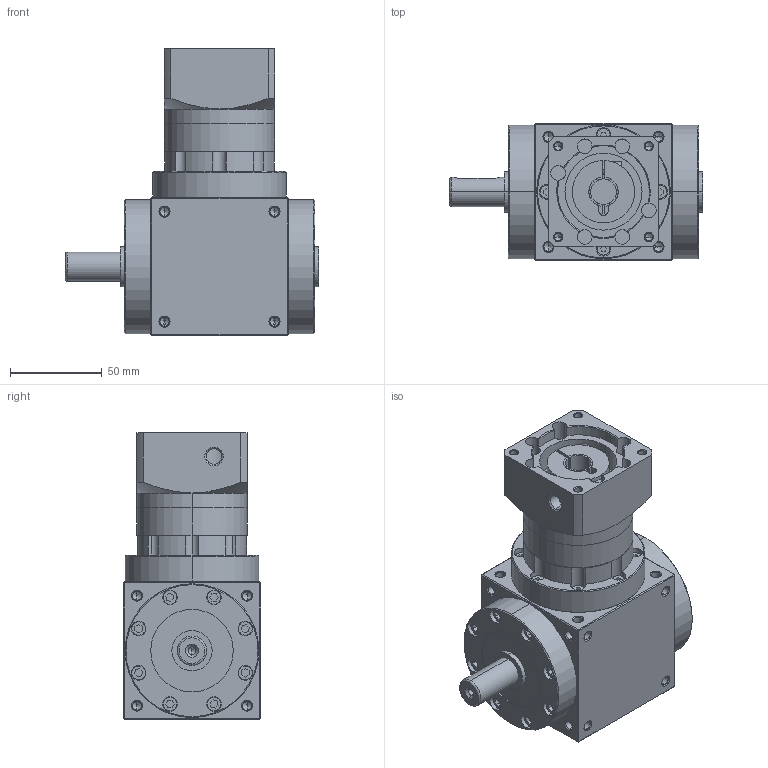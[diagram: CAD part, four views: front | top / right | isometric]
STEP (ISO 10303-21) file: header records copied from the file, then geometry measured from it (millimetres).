
FILE_DESCRIPTION (( 'STEP AP203' ), '1' );
FILE_NAME ('AT075-FL1-L2-14-50-70M5.STEP', '2025-11-27T07:35:55', ( 'Windows User' ), ( 'P R C' ), 'SwSTEP 2.0', 'SolidWorks 2016', '' );
FILE_SCHEMA (( 'CONFIG_CONTROL_DESIGN' ));
Length unit declared in the file: millimetre
Products named in the file (6): AT075-FL1-L2-14-50-70M5; AT75FL1-转角箱体-批量-左-单轴输出; AT75FL1-怀堤楊擘-蠶講; AT75FL1输入法兰-B-50-M5-70; 输入胀套-16; AT75FL1-单级齿圈
Assembly tree (5 placements, depth 2):
  AT075-FL1-L2-14-50-70M5
    AT75FL1-转角箱体-批量-左-单轴输出
    AT75FL1-怀堤楊擘-蠶講
    AT75FL1输入法兰-B-50-M5-70
    输入胀套-16
    AT75FL1-单级齿圈
Bounding box: 138 x 75 x 156.5 mm (x, y, z)
Volume: 532942.9 mm3; surface area: 131830.9 mm2
Topology: 5 solids, 21 shells, 1615 faces, 4121 edges, 2582 vertices
Faces by surface type: plane 794, cylinder 386, cone 297, bspline 138
Entity records: 53850 total; most frequent: CARTESIAN_POINT 15475, ORIENTED_EDGE 8006, DIRECTION 7423, EDGE_CURVE 4003, VERTEX_POINT 2582, VECTOR 2531, LINE 2531, AXIS2_PLACEMENT_3D 2446
